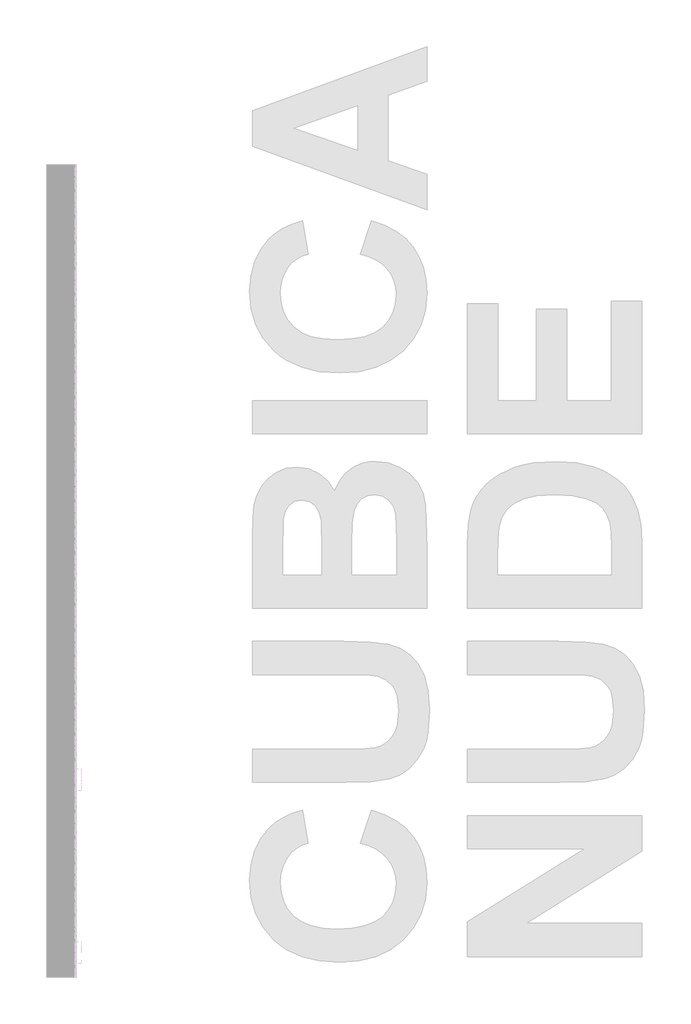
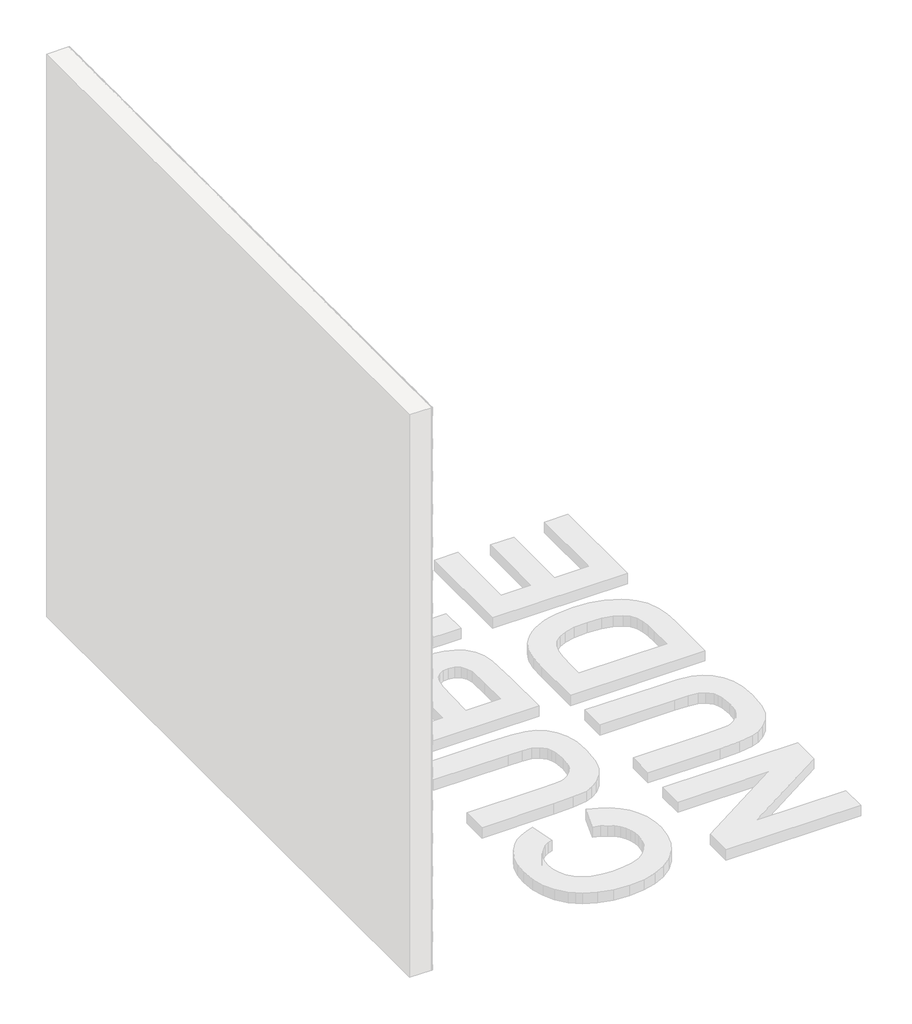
# One storey, part 68 of 121: 145 proxies.
"""IFC4 building model written with IfcOpenShell, lengths in millimetres."""

from ifc_helpers import new_model, si_unit, origin, place, context, project, spatial, transform, mapped, element, save
from components import generic_models_b2b2c5c1, generic_models_9bf73f6f, generic_models_5d175859

model = new_model("IFC4")

# Units and contexts
model_context = context("Model", 3, world=origin())
ifc_project = project(units=[si_unit("LENGTHUNIT", "METRE", prefix="MILLI")], contexts=[model_context])

# Site, building, storey
site = spatial("IfcSite", under=ifc_project)
building = spatial("IfcBuilding", under=site)
storey = spatial("IfcBuildingStorey", under=building, Name="PORTOBELLO - SHOWROOM", Elevation=0.0)

# Proxies
placement = place(None, origin())
generic_models_shape = generic_models_b2b2c5c1(model_context)
element("IfcBuildingElementProxy", 1, Name="PBSHOP - CUBICA NUDE 4,8X8,3 : CUBICA NUDE - POSIÇÃO 01", ObjectType="PBSHOP - CUBICA NUDE 4,8X8,3 : CUBICA NUDE - POSIÇÃO 01", at=placement, inside=storey, context=model_context, shape_type="MappedRepresentation", body=[
    mapped(generic_models_shape, transform((150369.5341846, 8304.1723997, 1460.2456575), x_axis=(0.0, 1.0, 0.0), y_axis=(0.0, 0.0, 1.0), z_axis=(1.0, 0.0, 0.0))),
])
element("IfcBuildingElementProxy", 2, Name="PBSHOP - CUBICA NUDE 4,8X8,3 : CUBICA NUDE - POSIÇÃO 01", ObjectType="PBSHOP - CUBICA NUDE 4,8X8,3 : CUBICA NUDE - POSIÇÃO 01", at=placement, inside=storey, context=model_context, shape_type="MappedRepresentation", body=[
    mapped(generic_models_shape, transform((150369.5341846, 8395.0116689, 1460.2456575), x_axis=(0.0, 1.0, 0.0), y_axis=(0.0, 0.0, 1.0), z_axis=(1.0, 0.0, 0.0))),
])
element("IfcBuildingElementProxy", 3, Name="PBSHOP - CUBICA NUDE 4,8X8,3 : CUBICA NUDE - POSIÇÃO 01", ObjectType="PBSHOP - CUBICA NUDE 4,8X8,3 : CUBICA NUDE - POSIÇÃO 01", at=placement, inside=storey, context=model_context, shape_type="MappedRepresentation", body=[
    mapped(generic_models_shape, transform((150369.5341846, 8485.8509382, 1460.2456575), x_axis=(0.0, 1.0, 0.0), y_axis=(0.0, 0.0, 1.0), z_axis=(1.0, 0.0, 0.0))),
])
element("IfcBuildingElementProxy", 4, Name="PBSHOP - CUBICA NUDE 4,8X8,3 : CUBICA NUDE - POSIÇÃO 01", ObjectType="PBSHOP - CUBICA NUDE 4,8X8,3 : CUBICA NUDE - POSIÇÃO 01", at=placement, inside=storey, context=model_context, shape_type="MappedRepresentation", body=[
    mapped(generic_models_shape, transform((150369.5341846, 8576.6902074, 1460.2456575), x_axis=(0.0, 1.0, 0.0), y_axis=(0.0, 0.0, 1.0), z_axis=(1.0, 0.0, 0.0))),
])
element("IfcBuildingElementProxy", 5, Name="PBSHOP - CUBICA NUDE 4,8X8,3 : CUBICA NUDE - POSIÇÃO 01", ObjectType="PBSHOP - CUBICA NUDE 4,8X8,3 : CUBICA NUDE - POSIÇÃO 01", at=placement, inside=storey, context=model_context, shape_type="MappedRepresentation", body=[
    mapped(generic_models_shape, transform((150369.5341846, 8667.5294767, 1460.2456575), x_axis=(0.0, 1.0, 0.0), y_axis=(0.0, 0.0, 1.0), z_axis=(1.0, 0.0, 0.0))),
])
element("IfcBuildingElementProxy", 6, Name="PBSHOP - CUBICA NUDE 4,8X8,3 : CUBICA NUDE - POSIÇÃO 01", ObjectType="PBSHOP - CUBICA NUDE 4,8X8,3 : CUBICA NUDE - POSIÇÃO 01", at=placement, inside=storey, context=model_context, shape_type="MappedRepresentation", body=[
    mapped(generic_models_shape, transform((150369.5341846, 8758.3687459, 1460.2456575), x_axis=(0.0, 1.0, 0.0), y_axis=(0.0, 0.0, 1.0), z_axis=(1.0, 0.0, 0.0))),
])
element("IfcBuildingElementProxy", 7, Name="PBSHOP - CUBICA NUDE 4,8X8,3 : CUBICA NUDE - POSIÇÃO 01", ObjectType="PBSHOP - CUBICA NUDE 4,8X8,3 : CUBICA NUDE - POSIÇÃO 01", at=placement, inside=storey, context=model_context, shape_type="MappedRepresentation", body=[
    mapped(generic_models_shape, transform((150369.5341846, 8849.2080152, 1460.2456575), x_axis=(0.0, 1.0, 0.0), y_axis=(0.0, 0.0, 1.0), z_axis=(1.0, 0.0, 0.0))),
])
element("IfcBuildingElementProxy", 8, Name="PBSHOP - CUBICA NUDE 4,8X8,3 : CUBICA NUDE - POSIÇÃO 01", ObjectType="PBSHOP - CUBICA NUDE 4,8X8,3 : CUBICA NUDE - POSIÇÃO 01", at=placement, inside=storey, context=model_context, shape_type="MappedRepresentation", body=[
    mapped(generic_models_shape, transform((150369.5341846, 8940.0472844, 1460.2456575), x_axis=(0.0, 1.0, 0.0), y_axis=(0.0, 0.0, 1.0), z_axis=(1.0, 0.0, 0.0))),
])
element("IfcBuildingElementProxy", 9, Name="PBSHOP - CUBICA NUDE 4,8X8,3 : CUBICA NUDE - POSIÇÃO 01", ObjectType="PBSHOP - CUBICA NUDE 4,8X8,3 : CUBICA NUDE - POSIÇÃO 01", at=placement, inside=storey, context=model_context, shape_type="MappedRepresentation", body=[
    mapped(generic_models_shape, transform((150369.5341846, 8077.0742266, 1539.1802959), x_axis=(0.0, 1.0, 0.0), y_axis=(0.0, 0.0, 1.0), z_axis=(1.0, 0.0, 0.0))),
])
element("IfcBuildingElementProxy", 10, Name="PBSHOP - CUBICA NUDE 4,8X8,3 : CUBICA NUDE - POSIÇÃO 01", ObjectType="PBSHOP - CUBICA NUDE 4,8X8,3 : CUBICA NUDE - POSIÇÃO 01", at=placement, inside=storey, context=model_context, shape_type="MappedRepresentation", body=[
    mapped(generic_models_shape, transform((150369.5341846, 8167.9134958, 1539.1802959), x_axis=(0.0, 1.0, 0.0), y_axis=(0.0, 0.0, 1.0), z_axis=(1.0, 0.0, 0.0))),
])
element("IfcBuildingElementProxy", 11, Name="PBSHOP - CUBICA NUDE 4,8X8,3 : CUBICA NUDE - POSIÇÃO 01", ObjectType="PBSHOP - CUBICA NUDE 4,8X8,3 : CUBICA NUDE - POSIÇÃO 01", at=placement, inside=storey, context=model_context, shape_type="MappedRepresentation", body=[
    mapped(generic_models_shape, transform((150369.5341846, 8258.7527651, 1539.1802959), x_axis=(0.0, 1.0, 0.0), y_axis=(0.0, 0.0, 1.0), z_axis=(1.0, 0.0, 0.0))),
])
element("IfcBuildingElementProxy", 12, Name="PBSHOP - CUBICA NUDE 4,8X8,3 : CUBICA NUDE - POSIÇÃO 01", ObjectType="PBSHOP - CUBICA NUDE 4,8X8,3 : CUBICA NUDE - POSIÇÃO 01", at=placement, inside=storey, context=model_context, shape_type="MappedRepresentation", body=[
    mapped(generic_models_shape, transform((150369.5341846, 8349.5920343, 1539.1802959), x_axis=(0.0, 1.0, 0.0), y_axis=(0.0, 0.0, 1.0), z_axis=(1.0, 0.0, 0.0))),
])
element("IfcBuildingElementProxy", 13, Name="PBSHOP - CUBICA NUDE 4,8X8,3 : CUBICA NUDE - POSIÇÃO 01", ObjectType="PBSHOP - CUBICA NUDE 4,8X8,3 : CUBICA NUDE - POSIÇÃO 01", at=placement, inside=storey, context=model_context, shape_type="MappedRepresentation", body=[
    mapped(generic_models_shape, transform((150369.5341846, 8440.4313036, 1539.1802959), x_axis=(0.0, 1.0, 0.0), y_axis=(0.0, 0.0, 1.0), z_axis=(1.0, 0.0, 0.0))),
])
element("IfcBuildingElementProxy", 14, Name="PBSHOP - CUBICA NUDE 4,8X8,3 : CUBICA NUDE - POSIÇÃO 01", ObjectType="PBSHOP - CUBICA NUDE 4,8X8,3 : CUBICA NUDE - POSIÇÃO 01", at=placement, inside=storey, context=model_context, shape_type="MappedRepresentation", body=[
    mapped(generic_models_shape, transform((150369.5341846, 8531.2705728, 1539.1802959), x_axis=(0.0, 1.0, 0.0), y_axis=(0.0, 0.0, 1.0), z_axis=(1.0, 0.0, 0.0))),
])
element("IfcBuildingElementProxy", 15, Name="PBSHOP - CUBICA NUDE 4,8X8,3 : CUBICA NUDE - POSIÇÃO 01", ObjectType="PBSHOP - CUBICA NUDE 4,8X8,3 : CUBICA NUDE - POSIÇÃO 01", at=placement, inside=storey, context=model_context, shape_type="MappedRepresentation", body=[
    mapped(generic_models_shape, transform((150369.5341846, 8622.109842, 1539.1802959), x_axis=(0.0, 1.0, 0.0), y_axis=(0.0, 0.0, 1.0), z_axis=(1.0, 0.0, 0.0))),
])
element("IfcBuildingElementProxy", 16, Name="PBSHOP - CUBICA NUDE 4,8X8,3 : CUBICA NUDE - POSIÇÃO 01", ObjectType="PBSHOP - CUBICA NUDE 4,8X8,3 : CUBICA NUDE - POSIÇÃO 01", at=placement, inside=storey, context=model_context, shape_type="MappedRepresentation", body=[
    mapped(generic_models_shape, transform((150369.5341846, 8712.9491113, 1539.1802959), x_axis=(0.0, 1.0, 0.0), y_axis=(0.0, 0.0, 1.0), z_axis=(1.0, 0.0, 0.0))),
])
element("IfcBuildingElementProxy", 17, Name="PBSHOP - CUBICA NUDE 4,8X8,3 : CUBICA NUDE - POSIÇÃO 01", ObjectType="PBSHOP - CUBICA NUDE 4,8X8,3 : CUBICA NUDE - POSIÇÃO 01", at=placement, inside=storey, context=model_context, shape_type="MappedRepresentation", body=[
    mapped(generic_models_shape, transform((150369.5341846, 8803.7883805, 1539.1802959), x_axis=(0.0, 1.0, 0.0), y_axis=(0.0, 0.0, 1.0), z_axis=(1.0, 0.0, 0.0))),
])
element("IfcBuildingElementProxy", 18, Name="PBSHOP - CUBICA NUDE 4,8X8,3 : CUBICA NUDE - POSIÇÃO 01", ObjectType="PBSHOP - CUBICA NUDE 4,8X8,3 : CUBICA NUDE - POSIÇÃO 01", at=placement, inside=storey, context=model_context, shape_type="MappedRepresentation", body=[
    mapped(generic_models_shape, transform((150369.5341846, 8894.6276498, 1539.1802959), x_axis=(0.0, 1.0, 0.0), y_axis=(0.0, 0.0, 1.0), z_axis=(1.0, 0.0, 0.0))),
])
element("IfcBuildingElementProxy", 19, Name="PBSHOP - CUBICA NUDE 4,8X8,3 : CUBICA NUDE - POSIÇÃO 01", ObjectType="PBSHOP - CUBICA NUDE 4,8X8,3 : CUBICA NUDE - POSIÇÃO 01", at=placement, inside=storey, context=model_context, shape_type="MappedRepresentation", body=[
    mapped(generic_models_shape, transform((150369.5341846, 8985.466919, 1539.1802959), x_axis=(0.0, 1.0, 0.0), y_axis=(0.0, 0.0, 1.0), z_axis=(1.0, 0.0, 0.0))),
])
element("IfcBuildingElementProxy", 20, Name="PBSHOP - CUBICA NUDE 4,8X8,3 : CUBICA NUDE - POSIÇÃO 01", ObjectType="PBSHOP - CUBICA NUDE 4,8X8,3 : CUBICA NUDE - POSIÇÃO 01", at=placement, inside=storey, context=model_context, shape_type="MappedRepresentation", body=[
    mapped(generic_models_shape, transform((150369.5341846, 8031.654592, 1618.1149343), x_axis=(0.0, 1.0, 0.0), y_axis=(0.0, 0.0, 1.0), z_axis=(1.0, 0.0, 0.0))),
])
element("IfcBuildingElementProxy", 21, Name="PBSHOP - CUBICA NUDE 4,8X8,3 : CUBICA NUDE - POSIÇÃO 01", ObjectType="PBSHOP - CUBICA NUDE 4,8X8,3 : CUBICA NUDE - POSIÇÃO 01", at=placement, inside=storey, context=model_context, shape_type="MappedRepresentation", body=[
    mapped(generic_models_shape, transform((150369.5341846, 8122.4938612, 1618.1149343), x_axis=(0.0, 1.0, 0.0), y_axis=(0.0, 0.0, 1.0), z_axis=(1.0, 0.0, 0.0))),
])
element("IfcBuildingElementProxy", 22, Name="PBSHOP - CUBICA NUDE 4,8X8,3 : CUBICA NUDE - POSIÇÃO 01", ObjectType="PBSHOP - CUBICA NUDE 4,8X8,3 : CUBICA NUDE - POSIÇÃO 01", at=placement, inside=storey, context=model_context, shape_type="MappedRepresentation", body=[
    mapped(generic_models_shape, transform((150369.5341846, 8213.3331304, 1618.1149343), x_axis=(0.0, 1.0, 0.0), y_axis=(0.0, 0.0, 1.0), z_axis=(1.0, 0.0, 0.0))),
])
element("IfcBuildingElementProxy", 23, Name="PBSHOP - CUBICA NUDE 4,8X8,3 : CUBICA NUDE - POSIÇÃO 01", ObjectType="PBSHOP - CUBICA NUDE 4,8X8,3 : CUBICA NUDE - POSIÇÃO 01", at=placement, inside=storey, context=model_context, shape_type="MappedRepresentation", body=[
    mapped(generic_models_shape, transform((150369.5341846, 8304.1723997, 1618.1149343), x_axis=(0.0, 1.0, 0.0), y_axis=(0.0, 0.0, 1.0), z_axis=(1.0, 0.0, 0.0))),
])
element("IfcBuildingElementProxy", 24, Name="PBSHOP - CUBICA NUDE 4,8X8,3 : CUBICA NUDE - POSIÇÃO 01", ObjectType="PBSHOP - CUBICA NUDE 4,8X8,3 : CUBICA NUDE - POSIÇÃO 01", at=placement, inside=storey, context=model_context, shape_type="MappedRepresentation", body=[
    mapped(generic_models_shape, transform((150369.5341846, 8395.0116689, 1618.1149343), x_axis=(0.0, 1.0, 0.0), y_axis=(0.0, 0.0, 1.0), z_axis=(1.0, 0.0, 0.0))),
])
element("IfcBuildingElementProxy", 25, Name="PBSHOP - CUBICA NUDE 4,8X8,3 : CUBICA NUDE - POSIÇÃO 01", ObjectType="PBSHOP - CUBICA NUDE 4,8X8,3 : CUBICA NUDE - POSIÇÃO 01", at=placement, inside=storey, context=model_context, shape_type="MappedRepresentation", body=[
    mapped(generic_models_shape, transform((150369.5341846, 8485.8509382, 1618.1149343), x_axis=(0.0, 1.0, 0.0), y_axis=(0.0, 0.0, 1.0), z_axis=(1.0, 0.0, 0.0))),
])
element("IfcBuildingElementProxy", 26, Name="PBSHOP - CUBICA NUDE 4,8X8,3 : CUBICA NUDE - POSIÇÃO 01", ObjectType="PBSHOP - CUBICA NUDE 4,8X8,3 : CUBICA NUDE - POSIÇÃO 01", at=placement, inside=storey, context=model_context, shape_type="MappedRepresentation", body=[
    mapped(generic_models_shape, transform((150369.5341846, 8576.6902074, 1618.1149343), x_axis=(0.0, 1.0, 0.0), y_axis=(0.0, 0.0, 1.0), z_axis=(1.0, 0.0, 0.0))),
])
element("IfcBuildingElementProxy", 27, Name="PBSHOP - CUBICA NUDE 4,8X8,3 : CUBICA NUDE - POSIÇÃO 01", ObjectType="PBSHOP - CUBICA NUDE 4,8X8,3 : CUBICA NUDE - POSIÇÃO 01", at=placement, inside=storey, context=model_context, shape_type="MappedRepresentation", body=[
    mapped(generic_models_shape, transform((150369.5341846, 8667.5294767, 1618.1149343), x_axis=(0.0, 1.0, 0.0), y_axis=(0.0, 0.0, 1.0), z_axis=(1.0, 0.0, 0.0))),
])
element("IfcBuildingElementProxy", 28, Name="PBSHOP - CUBICA NUDE 4,8X8,3 : CUBICA NUDE - POSIÇÃO 01", ObjectType="PBSHOP - CUBICA NUDE 4,8X8,3 : CUBICA NUDE - POSIÇÃO 01", at=placement, inside=storey, context=model_context, shape_type="MappedRepresentation", body=[
    mapped(generic_models_shape, transform((150369.5341846, 8758.3687459, 1618.1149343), x_axis=(0.0, 1.0, 0.0), y_axis=(0.0, 0.0, 1.0), z_axis=(1.0, 0.0, 0.0))),
])
element("IfcBuildingElementProxy", 29, Name="PBSHOP - CUBICA NUDE 4,8X8,3 : CUBICA NUDE - POSIÇÃO 01", ObjectType="PBSHOP - CUBICA NUDE 4,8X8,3 : CUBICA NUDE - POSIÇÃO 01", at=placement, inside=storey, context=model_context, shape_type="MappedRepresentation", body=[
    mapped(generic_models_shape, transform((150369.5341846, 8849.2080152, 1618.1149343), x_axis=(0.0, 1.0, 0.0), y_axis=(0.0, 0.0, 1.0), z_axis=(1.0, 0.0, 0.0))),
])
element("IfcBuildingElementProxy", 30, Name="PBSHOP - CUBICA NUDE 4,8X8,3 : CUBICA NUDE - POSIÇÃO 01", ObjectType="PBSHOP - CUBICA NUDE 4,8X8,3 : CUBICA NUDE - POSIÇÃO 01", at=placement, inside=storey, context=model_context, shape_type="MappedRepresentation", body=[
    mapped(generic_models_shape, transform((150369.5341846, 8940.0472844, 1618.1149343), x_axis=(0.0, 1.0, 0.0), y_axis=(0.0, 0.0, 1.0), z_axis=(1.0, 0.0, 0.0))),
])
element("IfcBuildingElementProxy", 31, Name="PBSHOP - CUBICA NUDE 4,8X8,3 : CUBICA NUDE - POSIÇÃO 01", ObjectType="PBSHOP - CUBICA NUDE 4,8X8,3 : CUBICA NUDE - POSIÇÃO 01", at=placement, inside=storey, context=model_context, shape_type="MappedRepresentation", body=[
    mapped(generic_models_shape, transform((150369.5341846, 8077.0742266, 1697.0495727), x_axis=(0.0, 1.0, 0.0), y_axis=(0.0, 0.0, 1.0), z_axis=(1.0, 0.0, 0.0))),
])
element("IfcBuildingElementProxy", 32, Name="PBSHOP - CUBICA NUDE 4,8X8,3 : CUBICA NUDE - POSIÇÃO 01", ObjectType="PBSHOP - CUBICA NUDE 4,8X8,3 : CUBICA NUDE - POSIÇÃO 01", at=placement, inside=storey, context=model_context, shape_type="MappedRepresentation", body=[
    mapped(generic_models_shape, transform((150369.5341846, 8167.9134958, 1697.0495727), x_axis=(0.0, 1.0, 0.0), y_axis=(0.0, 0.0, 1.0), z_axis=(1.0, 0.0, 0.0))),
])
element("IfcBuildingElementProxy", 33, Name="PBSHOP - CUBICA NUDE 4,8X8,3 : CUBICA NUDE - POSIÇÃO 01", ObjectType="PBSHOP - CUBICA NUDE 4,8X8,3 : CUBICA NUDE - POSIÇÃO 01", at=placement, inside=storey, context=model_context, shape_type="MappedRepresentation", body=[
    mapped(generic_models_shape, transform((150369.5341846, 8258.7527651, 1697.0495727), x_axis=(0.0, 1.0, 0.0), y_axis=(0.0, 0.0, 1.0), z_axis=(1.0, 0.0, 0.0))),
])
element("IfcBuildingElementProxy", 34, Name="PBSHOP - CUBICA NUDE 4,8X8,3 : CUBICA NUDE - POSIÇÃO 01", ObjectType="PBSHOP - CUBICA NUDE 4,8X8,3 : CUBICA NUDE - POSIÇÃO 01", at=placement, inside=storey, context=model_context, shape_type="MappedRepresentation", body=[
    mapped(generic_models_shape, transform((150369.5341846, 8349.5920343, 1697.0495727), x_axis=(0.0, 1.0, 0.0), y_axis=(0.0, 0.0, 1.0), z_axis=(1.0, 0.0, 0.0))),
])
element("IfcBuildingElementProxy", 35, Name="PBSHOP - CUBICA NUDE 4,8X8,3 : CUBICA NUDE - POSIÇÃO 01", ObjectType="PBSHOP - CUBICA NUDE 4,8X8,3 : CUBICA NUDE - POSIÇÃO 01", at=placement, inside=storey, context=model_context, shape_type="MappedRepresentation", body=[
    mapped(generic_models_shape, transform((150369.5341846, 8440.4313036, 1697.0495727), x_axis=(0.0, 1.0, 0.0), y_axis=(0.0, 0.0, 1.0), z_axis=(1.0, 0.0, 0.0))),
])
element("IfcBuildingElementProxy", 36, Name="PBSHOP - CUBICA NUDE 4,8X8,3 : CUBICA NUDE - POSIÇÃO 01", ObjectType="PBSHOP - CUBICA NUDE 4,8X8,3 : CUBICA NUDE - POSIÇÃO 01", at=placement, inside=storey, context=model_context, shape_type="MappedRepresentation", body=[
    mapped(generic_models_shape, transform((150369.5341846, 8531.2705728, 1697.0495727), x_axis=(0.0, 1.0, 0.0), y_axis=(0.0, 0.0, 1.0), z_axis=(1.0, 0.0, 0.0))),
])
element("IfcBuildingElementProxy", 37, Name="PBSHOP - CUBICA NUDE 4,8X8,3 : CUBICA NUDE - POSIÇÃO 01", ObjectType="PBSHOP - CUBICA NUDE 4,8X8,3 : CUBICA NUDE - POSIÇÃO 01", at=placement, inside=storey, context=model_context, shape_type="MappedRepresentation", body=[
    mapped(generic_models_shape, transform((150369.5341846, 8622.109842, 1697.0495727), x_axis=(0.0, 1.0, 0.0), y_axis=(0.0, 0.0, 1.0), z_axis=(1.0, 0.0, 0.0))),
])
element("IfcBuildingElementProxy", 38, Name="PBSHOP - CUBICA NUDE 4,8X8,3 : CUBICA NUDE - POSIÇÃO 01", ObjectType="PBSHOP - CUBICA NUDE 4,8X8,3 : CUBICA NUDE - POSIÇÃO 01", at=placement, inside=storey, context=model_context, shape_type="MappedRepresentation", body=[
    mapped(generic_models_shape, transform((150369.5341846, 8712.9491113, 1697.0495727), x_axis=(0.0, 1.0, 0.0), y_axis=(0.0, 0.0, 1.0), z_axis=(1.0, 0.0, 0.0))),
])
element("IfcBuildingElementProxy", 39, Name="PBSHOP - CUBICA NUDE 4,8X8,3 : CUBICA NUDE - POSIÇÃO 01", ObjectType="PBSHOP - CUBICA NUDE 4,8X8,3 : CUBICA NUDE - POSIÇÃO 01", at=placement, inside=storey, context=model_context, shape_type="MappedRepresentation", body=[
    mapped(generic_models_shape, transform((150369.5341846, 8803.7883805, 1697.0495727), x_axis=(0.0, 1.0, 0.0), y_axis=(0.0, 0.0, 1.0), z_axis=(1.0, 0.0, 0.0))),
])
element("IfcBuildingElementProxy", 40, Name="PBSHOP - CUBICA NUDE 4,8X8,3 : CUBICA NUDE - POSIÇÃO 01", ObjectType="PBSHOP - CUBICA NUDE 4,8X8,3 : CUBICA NUDE - POSIÇÃO 01", at=placement, inside=storey, context=model_context, shape_type="MappedRepresentation", body=[
    mapped(generic_models_shape, transform((150369.5341846, 8894.6276498, 1697.0495727), x_axis=(0.0, 1.0, 0.0), y_axis=(0.0, 0.0, 1.0), z_axis=(1.0, 0.0, 0.0))),
])
element("IfcBuildingElementProxy", 41, Name="PBSHOP - CUBICA NUDE 4,8X8,3 : CUBICA NUDE - POSIÇÃO 01", ObjectType="PBSHOP - CUBICA NUDE 4,8X8,3 : CUBICA NUDE - POSIÇÃO 01", at=placement, inside=storey, context=model_context, shape_type="MappedRepresentation", body=[
    mapped(generic_models_shape, transform((150369.5341846, 8985.466919, 1697.0495727), x_axis=(0.0, 1.0, 0.0), y_axis=(0.0, 0.0, 1.0), z_axis=(1.0, 0.0, 0.0))),
])
element("IfcBuildingElementProxy", 42, Name="PBSHOP - CUBICA NUDE 4,8X8,3 : CUBICA NUDE - POSIÇÃO 01", ObjectType="PBSHOP - CUBICA NUDE 4,8X8,3 : CUBICA NUDE - POSIÇÃO 01", at=placement, inside=storey, context=model_context, shape_type="MappedRepresentation", body=[
    mapped(generic_models_shape, transform((150369.5341846, 8031.654592, 1775.984211), x_axis=(0.0, 1.0, 0.0), y_axis=(0.0, 0.0, 1.0), z_axis=(1.0, 0.0, 0.0))),
])
element("IfcBuildingElementProxy", 43, Name="PBSHOP - CUBICA NUDE 4,8X8,3 : CUBICA NUDE - POSIÇÃO 01", ObjectType="PBSHOP - CUBICA NUDE 4,8X8,3 : CUBICA NUDE - POSIÇÃO 01", at=placement, inside=storey, context=model_context, shape_type="MappedRepresentation", body=[
    mapped(generic_models_shape, transform((150369.5341846, 8122.4938612, 1775.984211), x_axis=(0.0, 1.0, 0.0), y_axis=(0.0, 0.0, 1.0), z_axis=(1.0, 0.0, 0.0))),
])
element("IfcBuildingElementProxy", 44, Name="PBSHOP - CUBICA NUDE 4,8X8,3 : CUBICA NUDE - POSIÇÃO 01", ObjectType="PBSHOP - CUBICA NUDE 4,8X8,3 : CUBICA NUDE - POSIÇÃO 01", at=placement, inside=storey, context=model_context, shape_type="MappedRepresentation", body=[
    mapped(generic_models_shape, transform((150369.5341846, 8213.3331304, 1775.984211), x_axis=(0.0, 1.0, 0.0), y_axis=(0.0, 0.0, 1.0), z_axis=(1.0, 0.0, 0.0))),
])
element("IfcBuildingElementProxy", 45, Name="PBSHOP - CUBICA NUDE 4,8X8,3 : CUBICA NUDE - POSIÇÃO 01", ObjectType="PBSHOP - CUBICA NUDE 4,8X8,3 : CUBICA NUDE - POSIÇÃO 01", at=placement, inside=storey, context=model_context, shape_type="MappedRepresentation", body=[
    mapped(generic_models_shape, transform((150369.5341846, 8304.1723997, 1775.984211), x_axis=(0.0, 1.0, 0.0), y_axis=(0.0, 0.0, 1.0), z_axis=(1.0, 0.0, 0.0))),
])
element("IfcBuildingElementProxy", 46, Name="PBSHOP - CUBICA NUDE 4,8X8,3 : CUBICA NUDE - POSIÇÃO 01", ObjectType="PBSHOP - CUBICA NUDE 4,8X8,3 : CUBICA NUDE - POSIÇÃO 01", at=placement, inside=storey, context=model_context, shape_type="MappedRepresentation", body=[
    mapped(generic_models_shape, transform((150369.5341846, 8395.0116689, 1775.984211), x_axis=(0.0, 1.0, 0.0), y_axis=(0.0, 0.0, 1.0), z_axis=(1.0, 0.0, 0.0))),
])
element("IfcBuildingElementProxy", 47, Name="PBSHOP - CUBICA NUDE 4,8X8,3 : CUBICA NUDE - POSIÇÃO 01", ObjectType="PBSHOP - CUBICA NUDE 4,8X8,3 : CUBICA NUDE - POSIÇÃO 01", at=placement, inside=storey, context=model_context, shape_type="MappedRepresentation", body=[
    mapped(generic_models_shape, transform((150369.5341846, 8485.8509382, 1775.984211), x_axis=(0.0, 1.0, 0.0), y_axis=(0.0, 0.0, 1.0), z_axis=(1.0, 0.0, 0.0))),
])
element("IfcBuildingElementProxy", 48, Name="PBSHOP - CUBICA NUDE 4,8X8,3 : CUBICA NUDE - POSIÇÃO 01", ObjectType="PBSHOP - CUBICA NUDE 4,8X8,3 : CUBICA NUDE - POSIÇÃO 01", at=placement, inside=storey, context=model_context, shape_type="MappedRepresentation", body=[
    mapped(generic_models_shape, transform((150369.5341846, 8576.6902074, 1775.984211), x_axis=(0.0, 1.0, 0.0), y_axis=(0.0, 0.0, 1.0), z_axis=(1.0, 0.0, 0.0))),
])
element("IfcBuildingElementProxy", 49, Name="PBSHOP - CUBICA NUDE 4,8X8,3 : CUBICA NUDE - POSIÇÃO 01", ObjectType="PBSHOP - CUBICA NUDE 4,8X8,3 : CUBICA NUDE - POSIÇÃO 01", at=placement, inside=storey, context=model_context, shape_type="MappedRepresentation", body=[
    mapped(generic_models_shape, transform((150369.5341846, 8667.5294767, 1775.984211), x_axis=(0.0, 1.0, 0.0), y_axis=(0.0, 0.0, 1.0), z_axis=(1.0, 0.0, 0.0))),
])
element("IfcBuildingElementProxy", 50, Name="PBSHOP - CUBICA NUDE 4,8X8,3 : CUBICA NUDE - POSIÇÃO 01", ObjectType="PBSHOP - CUBICA NUDE 4,8X8,3 : CUBICA NUDE - POSIÇÃO 01", at=placement, inside=storey, context=model_context, shape_type="MappedRepresentation", body=[
    mapped(generic_models_shape, transform((150369.5341846, 8758.3687459, 1775.984211), x_axis=(0.0, 1.0, 0.0), y_axis=(0.0, 0.0, 1.0), z_axis=(1.0, 0.0, 0.0))),
])
element("IfcBuildingElementProxy", 51, Name="PBSHOP - CUBICA NUDE 4,8X8,3 : CUBICA NUDE - POSIÇÃO 01", ObjectType="PBSHOP - CUBICA NUDE 4,8X8,3 : CUBICA NUDE - POSIÇÃO 01", at=placement, inside=storey, context=model_context, shape_type="MappedRepresentation", body=[
    mapped(generic_models_shape, transform((150369.5341846, 8849.2080152, 1775.984211), x_axis=(0.0, 1.0, 0.0), y_axis=(0.0, 0.0, 1.0), z_axis=(1.0, 0.0, 0.0))),
])
generic_models_2_shape = generic_models_9bf73f6f(model_context)
element("IfcBuildingElementProxy", 52, Name="PBSHOP - CUBICA NUDE 4,8X8,3 : CUBICA NUDE - POSIÇÃO 03", ObjectType="PBSHOP - CUBICA NUDE 4,8X8,3 : CUBICA NUDE - POSIÇÃO 03", at=placement, inside=storey, context=model_context, shape_type="MappedRepresentation", body=[
    mapped(generic_models_2_shape, transform((150369.5341846, 8008.9469338, 1420.7371279), x_axis=(0.0, 1.0, 0.0), y_axis=(0.0, 0.0, 1.0), z_axis=(1.0, 0.0, 0.0))),
])
element("IfcBuildingElementProxy", 53, Name="PBSHOP - CUBICA NUDE 4,8X8,3 : CUBICA NUDE - POSIÇÃO 03", ObjectType="PBSHOP - CUBICA NUDE 4,8X8,3 : CUBICA NUDE - POSIÇÃO 03", at=placement, inside=storey, context=model_context, shape_type="MappedRepresentation", body=[
    mapped(generic_models_2_shape, transform((150369.5341846, 8099.7862031, 1420.7371279), x_axis=(0.0, 1.0, 0.0), y_axis=(0.0, 0.0, 1.0), z_axis=(1.0, 0.0, 0.0))),
])
element("IfcBuildingElementProxy", 54, Name="PBSHOP - CUBICA NUDE 4,8X8,3 : CUBICA NUDE - POSIÇÃO 03", ObjectType="PBSHOP - CUBICA NUDE 4,8X8,3 : CUBICA NUDE - POSIÇÃO 03", at=placement, inside=storey, context=model_context, shape_type="MappedRepresentation", body=[
    mapped(generic_models_2_shape, transform((150369.5341846, 8190.6254723, 1420.7371279), x_axis=(0.0, 1.0, 0.0), y_axis=(0.0, 0.0, 1.0), z_axis=(1.0, 0.0, 0.0))),
])
element("IfcBuildingElementProxy", 55, Name="PBSHOP - CUBICA NUDE 4,8X8,3 : CUBICA NUDE - POSIÇÃO 03", ObjectType="PBSHOP - CUBICA NUDE 4,8X8,3 : CUBICA NUDE - POSIÇÃO 03", at=placement, inside=storey, context=model_context, shape_type="MappedRepresentation", body=[
    mapped(generic_models_2_shape, transform((150369.5341846, 8281.4647415, 1420.7371279), x_axis=(0.0, 1.0, 0.0), y_axis=(0.0, 0.0, 1.0), z_axis=(1.0, 0.0, 0.0))),
])
element("IfcBuildingElementProxy", 56, Name="PBSHOP - CUBICA NUDE 4,8X8,3 : CUBICA NUDE - POSIÇÃO 03", ObjectType="PBSHOP - CUBICA NUDE 4,8X8,3 : CUBICA NUDE - POSIÇÃO 03", at=placement, inside=storey, context=model_context, shape_type="MappedRepresentation", body=[
    mapped(generic_models_2_shape, transform((150369.5341846, 8372.3040108, 1420.7371279), x_axis=(0.0, 1.0, 0.0), y_axis=(0.0, 0.0, 1.0), z_axis=(1.0, 0.0, 0.0))),
])
element("IfcBuildingElementProxy", 57, Name="PBSHOP - CUBICA NUDE 4,8X8,3 : CUBICA NUDE - POSIÇÃO 03", ObjectType="PBSHOP - CUBICA NUDE 4,8X8,3 : CUBICA NUDE - POSIÇÃO 03", at=placement, inside=storey, context=model_context, shape_type="MappedRepresentation", body=[
    mapped(generic_models_2_shape, transform((150369.5341846, 8463.14328, 1420.7371279), x_axis=(0.0, 1.0, 0.0), y_axis=(0.0, 0.0, 1.0), z_axis=(1.0, 0.0, 0.0))),
])
element("IfcBuildingElementProxy", 58, Name="PBSHOP - CUBICA NUDE 4,8X8,3 : CUBICA NUDE - POSIÇÃO 03", ObjectType="PBSHOP - CUBICA NUDE 4,8X8,3 : CUBICA NUDE - POSIÇÃO 03", at=placement, inside=storey, context=model_context, shape_type="MappedRepresentation", body=[
    mapped(generic_models_2_shape, transform((150369.5341846, 8553.9825493, 1420.7371279), x_axis=(0.0, 1.0, 0.0), y_axis=(0.0, 0.0, 1.0), z_axis=(1.0, 0.0, 0.0))),
])
element("IfcBuildingElementProxy", 59, Name="PBSHOP - CUBICA NUDE 4,8X8,3 : CUBICA NUDE - POSIÇÃO 03", ObjectType="PBSHOP - CUBICA NUDE 4,8X8,3 : CUBICA NUDE - POSIÇÃO 03", at=placement, inside=storey, context=model_context, shape_type="MappedRepresentation", body=[
    mapped(generic_models_2_shape, transform((150369.5341846, 8644.8218185, 1420.7371279), x_axis=(0.0, 1.0, 0.0), y_axis=(0.0, 0.0, 1.0), z_axis=(1.0, 0.0, 0.0))),
])
element("IfcBuildingElementProxy", 60, Name="PBSHOP - CUBICA NUDE 4,8X8,3 : CUBICA NUDE - POSIÇÃO 03", ObjectType="PBSHOP - CUBICA NUDE 4,8X8,3 : CUBICA NUDE - POSIÇÃO 03", at=placement, inside=storey, context=model_context, shape_type="MappedRepresentation", body=[
    mapped(generic_models_2_shape, transform((150369.5341846, 8735.6610878, 1420.7371279), x_axis=(0.0, 1.0, 0.0), y_axis=(0.0, 0.0, 1.0), z_axis=(1.0, 0.0, 0.0))),
])
element("IfcBuildingElementProxy", 61, Name="PBSHOP - CUBICA NUDE 4,8X8,3 : CUBICA NUDE - POSIÇÃO 03", ObjectType="PBSHOP - CUBICA NUDE 4,8X8,3 : CUBICA NUDE - POSIÇÃO 03", at=placement, inside=storey, context=model_context, shape_type="MappedRepresentation", body=[
    mapped(generic_models_2_shape, transform((150369.5341846, 8826.500357, 1420.7371279), x_axis=(0.0, 1.0, 0.0), y_axis=(0.0, 0.0, 1.0), z_axis=(1.0, 0.0, 0.0))),
])
element("IfcBuildingElementProxy", 62, Name="PBSHOP - CUBICA NUDE 4,8X8,3 : CUBICA NUDE - POSIÇÃO 03", ObjectType="PBSHOP - CUBICA NUDE 4,8X8,3 : CUBICA NUDE - POSIÇÃO 03", at=placement, inside=storey, context=model_context, shape_type="MappedRepresentation", body=[
    mapped(generic_models_2_shape, transform((150369.5341846, 8917.3396263, 1420.7371279), x_axis=(0.0, 1.0, 0.0), y_axis=(0.0, 0.0, 1.0), z_axis=(1.0, 0.0, 0.0))),
])
element("IfcBuildingElementProxy", 63, Name="PBSHOP - CUBICA NUDE 4,8X8,3 : CUBICA NUDE - POSIÇÃO 03", ObjectType="PBSHOP - CUBICA NUDE 4,8X8,3 : CUBICA NUDE - POSIÇÃO 03", at=placement, inside=storey, context=model_context, shape_type="MappedRepresentation", body=[
    mapped(generic_models_2_shape, transform((150369.5341846, 8054.3665684, 1499.6717663), x_axis=(0.0, 1.0, 0.0), y_axis=(0.0, 0.0, 1.0), z_axis=(1.0, 0.0, 0.0))),
])
element("IfcBuildingElementProxy", 64, Name="PBSHOP - CUBICA NUDE 4,8X8,3 : CUBICA NUDE - POSIÇÃO 03", ObjectType="PBSHOP - CUBICA NUDE 4,8X8,3 : CUBICA NUDE - POSIÇÃO 03", at=placement, inside=storey, context=model_context, shape_type="MappedRepresentation", body=[
    mapped(generic_models_2_shape, transform((150369.5341846, 8145.2058377, 1499.6717663), x_axis=(0.0, 1.0, 0.0), y_axis=(0.0, 0.0, 1.0), z_axis=(1.0, 0.0, 0.0))),
])
element("IfcBuildingElementProxy", 65, Name="PBSHOP - CUBICA NUDE 4,8X8,3 : CUBICA NUDE - POSIÇÃO 03", ObjectType="PBSHOP - CUBICA NUDE 4,8X8,3 : CUBICA NUDE - POSIÇÃO 03", at=placement, inside=storey, context=model_context, shape_type="MappedRepresentation", body=[
    mapped(generic_models_2_shape, transform((150369.5341846, 8236.0451069, 1499.6717663), x_axis=(0.0, 1.0, 0.0), y_axis=(0.0, 0.0, 1.0), z_axis=(1.0, 0.0, 0.0))),
])
element("IfcBuildingElementProxy", 66, Name="PBSHOP - CUBICA NUDE 4,8X8,3 : CUBICA NUDE - POSIÇÃO 03", ObjectType="PBSHOP - CUBICA NUDE 4,8X8,3 : CUBICA NUDE - POSIÇÃO 03", at=placement, inside=storey, context=model_context, shape_type="MappedRepresentation", body=[
    mapped(generic_models_2_shape, transform((150369.5341846, 8326.8843762, 1499.6717663), x_axis=(0.0, 1.0, 0.0), y_axis=(0.0, 0.0, 1.0), z_axis=(1.0, 0.0, 0.0))),
])
element("IfcBuildingElementProxy", 67, Name="PBSHOP - CUBICA NUDE 4,8X8,3 : CUBICA NUDE - POSIÇÃO 03", ObjectType="PBSHOP - CUBICA NUDE 4,8X8,3 : CUBICA NUDE - POSIÇÃO 03", at=placement, inside=storey, context=model_context, shape_type="MappedRepresentation", body=[
    mapped(generic_models_2_shape, transform((150369.5341846, 8417.7236454, 1499.6717663), x_axis=(0.0, 1.0, 0.0), y_axis=(0.0, 0.0, 1.0), z_axis=(1.0, 0.0, 0.0))),
])
element("IfcBuildingElementProxy", 68, Name="PBSHOP - CUBICA NUDE 4,8X8,3 : CUBICA NUDE - POSIÇÃO 03", ObjectType="PBSHOP - CUBICA NUDE 4,8X8,3 : CUBICA NUDE - POSIÇÃO 03", at=placement, inside=storey, context=model_context, shape_type="MappedRepresentation", body=[
    mapped(generic_models_2_shape, transform((150369.5341846, 8508.5629147, 1499.6717663), x_axis=(0.0, 1.0, 0.0), y_axis=(0.0, 0.0, 1.0), z_axis=(1.0, 0.0, 0.0))),
])
element("IfcBuildingElementProxy", 69, Name="PBSHOP - CUBICA NUDE 4,8X8,3 : CUBICA NUDE - POSIÇÃO 03", ObjectType="PBSHOP - CUBICA NUDE 4,8X8,3 : CUBICA NUDE - POSIÇÃO 03", at=placement, inside=storey, context=model_context, shape_type="MappedRepresentation", body=[
    mapped(generic_models_2_shape, transform((150369.5341846, 8599.4021839, 1499.6717663), x_axis=(0.0, 1.0, 0.0), y_axis=(0.0, 0.0, 1.0), z_axis=(1.0, 0.0, 0.0))),
])
element("IfcBuildingElementProxy", 70, Name="PBSHOP - CUBICA NUDE 4,8X8,3 : CUBICA NUDE - POSIÇÃO 03", ObjectType="PBSHOP - CUBICA NUDE 4,8X8,3 : CUBICA NUDE - POSIÇÃO 03", at=placement, inside=storey, context=model_context, shape_type="MappedRepresentation", body=[
    mapped(generic_models_2_shape, transform((150369.5341846, 8690.2414531, 1499.6717663), x_axis=(0.0, 1.0, 0.0), y_axis=(0.0, 0.0, 1.0), z_axis=(1.0, 0.0, 0.0))),
])
element("IfcBuildingElementProxy", 71, Name="PBSHOP - CUBICA NUDE 4,8X8,3 : CUBICA NUDE - POSIÇÃO 03", ObjectType="PBSHOP - CUBICA NUDE 4,8X8,3 : CUBICA NUDE - POSIÇÃO 03", at=placement, inside=storey, context=model_context, shape_type="MappedRepresentation", body=[
    mapped(generic_models_2_shape, transform((150369.5341846, 8781.0807224, 1499.6717663), x_axis=(0.0, 1.0, 0.0), y_axis=(0.0, 0.0, 1.0), z_axis=(1.0, 0.0, 0.0))),
])
element("IfcBuildingElementProxy", 72, Name="PBSHOP - CUBICA NUDE 4,8X8,3 : CUBICA NUDE - POSIÇÃO 03", ObjectType="PBSHOP - CUBICA NUDE 4,8X8,3 : CUBICA NUDE - POSIÇÃO 03", at=placement, inside=storey, context=model_context, shape_type="MappedRepresentation", body=[
    mapped(generic_models_2_shape, transform((150369.5341846, 8871.9199916, 1499.6717663), x_axis=(0.0, 1.0, 0.0), y_axis=(0.0, 0.0, 1.0), z_axis=(1.0, 0.0, 0.0))),
])
element("IfcBuildingElementProxy", 73, Name="PBSHOP - CUBICA NUDE 4,8X8,3 : CUBICA NUDE - POSIÇÃO 03", ObjectType="PBSHOP - CUBICA NUDE 4,8X8,3 : CUBICA NUDE - POSIÇÃO 03", at=placement, inside=storey, context=model_context, shape_type="MappedRepresentation", body=[
    mapped(generic_models_2_shape, transform((150369.5341846, 8962.7592609, 1499.6717663), x_axis=(0.0, 1.0, 0.0), y_axis=(0.0, 0.0, 1.0), z_axis=(1.0, 0.0, 0.0))),
])
element("IfcBuildingElementProxy", 74, Name="PBSHOP - CUBICA NUDE 4,8X8,3 : CUBICA NUDE - POSIÇÃO 03", ObjectType="PBSHOP - CUBICA NUDE 4,8X8,3 : CUBICA NUDE - POSIÇÃO 03", at=placement, inside=storey, context=model_context, shape_type="MappedRepresentation", body=[
    mapped(generic_models_2_shape, transform((150369.5341846, 8008.9469338, 1578.6064047), x_axis=(0.0, 1.0, 0.0), y_axis=(0.0, 0.0, 1.0), z_axis=(1.0, 0.0, 0.0))),
])
element("IfcBuildingElementProxy", 75, Name="PBSHOP - CUBICA NUDE 4,8X8,3 : CUBICA NUDE - POSIÇÃO 03", ObjectType="PBSHOP - CUBICA NUDE 4,8X8,3 : CUBICA NUDE - POSIÇÃO 03", at=placement, inside=storey, context=model_context, shape_type="MappedRepresentation", body=[
    mapped(generic_models_2_shape, transform((150369.5341846, 8099.7862031, 1578.6064047), x_axis=(0.0, 1.0, 0.0), y_axis=(0.0, 0.0, 1.0), z_axis=(1.0, 0.0, 0.0))),
])
element("IfcBuildingElementProxy", 76, Name="PBSHOP - CUBICA NUDE 4,8X8,3 : CUBICA NUDE - POSIÇÃO 03", ObjectType="PBSHOP - CUBICA NUDE 4,8X8,3 : CUBICA NUDE - POSIÇÃO 03", at=placement, inside=storey, context=model_context, shape_type="MappedRepresentation", body=[
    mapped(generic_models_2_shape, transform((150369.5341846, 8190.6254723, 1578.6064047), x_axis=(0.0, 1.0, 0.0), y_axis=(0.0, 0.0, 1.0), z_axis=(1.0, 0.0, 0.0))),
])
element("IfcBuildingElementProxy", 77, Name="PBSHOP - CUBICA NUDE 4,8X8,3 : CUBICA NUDE - POSIÇÃO 03", ObjectType="PBSHOP - CUBICA NUDE 4,8X8,3 : CUBICA NUDE - POSIÇÃO 03", at=placement, inside=storey, context=model_context, shape_type="MappedRepresentation", body=[
    mapped(generic_models_2_shape, transform((150369.5341846, 8281.4647415, 1578.6064047), x_axis=(0.0, 1.0, 0.0), y_axis=(0.0, 0.0, 1.0), z_axis=(1.0, 0.0, 0.0))),
])
element("IfcBuildingElementProxy", 78, Name="PBSHOP - CUBICA NUDE 4,8X8,3 : CUBICA NUDE - POSIÇÃO 03", ObjectType="PBSHOP - CUBICA NUDE 4,8X8,3 : CUBICA NUDE - POSIÇÃO 03", at=placement, inside=storey, context=model_context, shape_type="MappedRepresentation", body=[
    mapped(generic_models_2_shape, transform((150369.5341846, 8372.3040108, 1578.6064047), x_axis=(0.0, 1.0, 0.0), y_axis=(0.0, 0.0, 1.0), z_axis=(1.0, 0.0, 0.0))),
])
element("IfcBuildingElementProxy", 79, Name="PBSHOP - CUBICA NUDE 4,8X8,3 : CUBICA NUDE - POSIÇÃO 03", ObjectType="PBSHOP - CUBICA NUDE 4,8X8,3 : CUBICA NUDE - POSIÇÃO 03", at=placement, inside=storey, context=model_context, shape_type="MappedRepresentation", body=[
    mapped(generic_models_2_shape, transform((150369.5341846, 8463.14328, 1578.6064047), x_axis=(0.0, 1.0, 0.0), y_axis=(0.0, 0.0, 1.0), z_axis=(1.0, 0.0, 0.0))),
])
element("IfcBuildingElementProxy", 80, Name="PBSHOP - CUBICA NUDE 4,8X8,3 : CUBICA NUDE - POSIÇÃO 03", ObjectType="PBSHOP - CUBICA NUDE 4,8X8,3 : CUBICA NUDE - POSIÇÃO 03", at=placement, inside=storey, context=model_context, shape_type="MappedRepresentation", body=[
    mapped(generic_models_2_shape, transform((150369.5341846, 8553.9825493, 1578.6064047), x_axis=(0.0, 1.0, 0.0), y_axis=(0.0, 0.0, 1.0), z_axis=(1.0, 0.0, 0.0))),
])
element("IfcBuildingElementProxy", 81, Name="PBSHOP - CUBICA NUDE 4,8X8,3 : CUBICA NUDE - POSIÇÃO 03", ObjectType="PBSHOP - CUBICA NUDE 4,8X8,3 : CUBICA NUDE - POSIÇÃO 03", at=placement, inside=storey, context=model_context, shape_type="MappedRepresentation", body=[
    mapped(generic_models_2_shape, transform((150369.5341846, 8644.8218185, 1578.6064047), x_axis=(0.0, 1.0, 0.0), y_axis=(0.0, 0.0, 1.0), z_axis=(1.0, 0.0, 0.0))),
])
element("IfcBuildingElementProxy", 82, Name="PBSHOP - CUBICA NUDE 4,8X8,3 : CUBICA NUDE - POSIÇÃO 03", ObjectType="PBSHOP - CUBICA NUDE 4,8X8,3 : CUBICA NUDE - POSIÇÃO 03", at=placement, inside=storey, context=model_context, shape_type="MappedRepresentation", body=[
    mapped(generic_models_2_shape, transform((150369.5341846, 8735.6610878, 1578.6064047), x_axis=(0.0, 1.0, 0.0), y_axis=(0.0, 0.0, 1.0), z_axis=(1.0, 0.0, 0.0))),
])
element("IfcBuildingElementProxy", 83, Name="PBSHOP - CUBICA NUDE 4,8X8,3 : CUBICA NUDE - POSIÇÃO 03", ObjectType="PBSHOP - CUBICA NUDE 4,8X8,3 : CUBICA NUDE - POSIÇÃO 03", at=placement, inside=storey, context=model_context, shape_type="MappedRepresentation", body=[
    mapped(generic_models_2_shape, transform((150369.5341846, 8826.500357, 1578.6064047), x_axis=(0.0, 1.0, 0.0), y_axis=(0.0, 0.0, 1.0), z_axis=(1.0, 0.0, 0.0))),
])
element("IfcBuildingElementProxy", 84, Name="PBSHOP - CUBICA NUDE 4,8X8,3 : CUBICA NUDE - POSIÇÃO 03", ObjectType="PBSHOP - CUBICA NUDE 4,8X8,3 : CUBICA NUDE - POSIÇÃO 03", at=placement, inside=storey, context=model_context, shape_type="MappedRepresentation", body=[
    mapped(generic_models_2_shape, transform((150369.5341846, 8917.3396263, 1578.6064047), x_axis=(0.0, 1.0, 0.0), y_axis=(0.0, 0.0, 1.0), z_axis=(1.0, 0.0, 0.0))),
])
element("IfcBuildingElementProxy", 85, Name="PBSHOP - CUBICA NUDE 4,8X8,3 : CUBICA NUDE - POSIÇÃO 03", ObjectType="PBSHOP - CUBICA NUDE 4,8X8,3 : CUBICA NUDE - POSIÇÃO 03", at=placement, inside=storey, context=model_context, shape_type="MappedRepresentation", body=[
    mapped(generic_models_2_shape, transform((150369.5341846, 8054.3665684, 1657.5410431), x_axis=(0.0, 1.0, 0.0), y_axis=(0.0, 0.0, 1.0), z_axis=(1.0, 0.0, 0.0))),
])
element("IfcBuildingElementProxy", 86, Name="PBSHOP - CUBICA NUDE 4,8X8,3 : CUBICA NUDE - POSIÇÃO 03", ObjectType="PBSHOP - CUBICA NUDE 4,8X8,3 : CUBICA NUDE - POSIÇÃO 03", at=placement, inside=storey, context=model_context, shape_type="MappedRepresentation", body=[
    mapped(generic_models_2_shape, transform((150369.5341846, 8145.2058377, 1657.5410431), x_axis=(0.0, 1.0, 0.0), y_axis=(0.0, 0.0, 1.0), z_axis=(1.0, 0.0, 0.0))),
])
element("IfcBuildingElementProxy", 87, Name="PBSHOP - CUBICA NUDE 4,8X8,3 : CUBICA NUDE - POSIÇÃO 03", ObjectType="PBSHOP - CUBICA NUDE 4,8X8,3 : CUBICA NUDE - POSIÇÃO 03", at=placement, inside=storey, context=model_context, shape_type="MappedRepresentation", body=[
    mapped(generic_models_2_shape, transform((150369.5341846, 8236.0451069, 1657.5410431), x_axis=(0.0, 1.0, 0.0), y_axis=(0.0, 0.0, 1.0), z_axis=(1.0, 0.0, 0.0))),
])
element("IfcBuildingElementProxy", 88, Name="PBSHOP - CUBICA NUDE 4,8X8,3 : CUBICA NUDE - POSIÇÃO 03", ObjectType="PBSHOP - CUBICA NUDE 4,8X8,3 : CUBICA NUDE - POSIÇÃO 03", at=placement, inside=storey, context=model_context, shape_type="MappedRepresentation", body=[
    mapped(generic_models_2_shape, transform((150369.5341846, 8326.8843762, 1657.5410431), x_axis=(0.0, 1.0, 0.0), y_axis=(0.0, 0.0, 1.0), z_axis=(1.0, 0.0, 0.0))),
])
element("IfcBuildingElementProxy", 89, Name="PBSHOP - CUBICA NUDE 4,8X8,3 : CUBICA NUDE - POSIÇÃO 03", ObjectType="PBSHOP - CUBICA NUDE 4,8X8,3 : CUBICA NUDE - POSIÇÃO 03", at=placement, inside=storey, context=model_context, shape_type="MappedRepresentation", body=[
    mapped(generic_models_2_shape, transform((150369.5341846, 8417.7236454, 1657.5410431), x_axis=(0.0, 1.0, 0.0), y_axis=(0.0, 0.0, 1.0), z_axis=(1.0, 0.0, 0.0))),
])
element("IfcBuildingElementProxy", 90, Name="PBSHOP - CUBICA NUDE 4,8X8,3 : CUBICA NUDE - POSIÇÃO 03", ObjectType="PBSHOP - CUBICA NUDE 4,8X8,3 : CUBICA NUDE - POSIÇÃO 03", at=placement, inside=storey, context=model_context, shape_type="MappedRepresentation", body=[
    mapped(generic_models_2_shape, transform((150369.5341846, 8508.5629147, 1657.5410431), x_axis=(0.0, 1.0, 0.0), y_axis=(0.0, 0.0, 1.0), z_axis=(1.0, 0.0, 0.0))),
])
element("IfcBuildingElementProxy", 91, Name="PBSHOP - CUBICA NUDE 4,8X8,3 : CUBICA NUDE - POSIÇÃO 03", ObjectType="PBSHOP - CUBICA NUDE 4,8X8,3 : CUBICA NUDE - POSIÇÃO 03", at=placement, inside=storey, context=model_context, shape_type="MappedRepresentation", body=[
    mapped(generic_models_2_shape, transform((150369.5341846, 8599.4021839, 1657.5410431), x_axis=(0.0, 1.0, 0.0), y_axis=(0.0, 0.0, 1.0), z_axis=(1.0, 0.0, 0.0))),
])
element("IfcBuildingElementProxy", 92, Name="PBSHOP - CUBICA NUDE 4,8X8,3 : CUBICA NUDE - POSIÇÃO 03", ObjectType="PBSHOP - CUBICA NUDE 4,8X8,3 : CUBICA NUDE - POSIÇÃO 03", at=placement, inside=storey, context=model_context, shape_type="MappedRepresentation", body=[
    mapped(generic_models_2_shape, transform((150369.5341846, 8690.2414531, 1657.5410431), x_axis=(0.0, 1.0, 0.0), y_axis=(0.0, 0.0, 1.0), z_axis=(1.0, 0.0, 0.0))),
])
element("IfcBuildingElementProxy", 93, Name="PBSHOP - CUBICA NUDE 4,8X8,3 : CUBICA NUDE - POSIÇÃO 03", ObjectType="PBSHOP - CUBICA NUDE 4,8X8,3 : CUBICA NUDE - POSIÇÃO 03", at=placement, inside=storey, context=model_context, shape_type="MappedRepresentation", body=[
    mapped(generic_models_2_shape, transform((150369.5341846, 8781.0807224, 1657.5410431), x_axis=(0.0, 1.0, 0.0), y_axis=(0.0, 0.0, 1.0), z_axis=(1.0, 0.0, 0.0))),
])
element("IfcBuildingElementProxy", 94, Name="PBSHOP - CUBICA NUDE 4,8X8,3 : CUBICA NUDE - POSIÇÃO 03", ObjectType="PBSHOP - CUBICA NUDE 4,8X8,3 : CUBICA NUDE - POSIÇÃO 03", at=placement, inside=storey, context=model_context, shape_type="MappedRepresentation", body=[
    mapped(generic_models_2_shape, transform((150369.5341846, 8871.9199916, 1657.5410431), x_axis=(0.0, 1.0, 0.0), y_axis=(0.0, 0.0, 1.0), z_axis=(1.0, 0.0, 0.0))),
])
element("IfcBuildingElementProxy", 95, Name="PBSHOP - CUBICA NUDE 4,8X8,3 : CUBICA NUDE - POSIÇÃO 03", ObjectType="PBSHOP - CUBICA NUDE 4,8X8,3 : CUBICA NUDE - POSIÇÃO 03", at=placement, inside=storey, context=model_context, shape_type="MappedRepresentation", body=[
    mapped(generic_models_2_shape, transform((150369.5341846, 8962.7592609, 1657.5410431), x_axis=(0.0, 1.0, 0.0), y_axis=(0.0, 0.0, 1.0), z_axis=(1.0, 0.0, 0.0))),
])
generic_models_3_shape = generic_models_5d175859(model_context)
element("IfcBuildingElementProxy", 96, Name="PBSHOP - CUBICA NUDE 4,8X8,3 : CUBICA NUDE - POSIÇÃO 01", ObjectType="PBSHOP - CUBICA NUDE 4,8X8,3 : CUBICA NUDE - POSIÇÃO 01", at=placement, inside=storey, context=model_context, shape_type="MappedRepresentation", body=[
    mapped(generic_models_3_shape, transform((150369.5341846, 8349.5963526, 1460.2456575), x_axis=(0.0, -1.0, 0.0), y_axis=(0.0, 0.0, -1.0), z_axis=(1.0, 0.0, 0.0))),
])
element("IfcBuildingElementProxy", 97, Name="PBSHOP - CUBICA NUDE 4,8X8,3 : CUBICA NUDE - POSIÇÃO 01", ObjectType="PBSHOP - CUBICA NUDE 4,8X8,3 : CUBICA NUDE - POSIÇÃO 01", at=placement, inside=storey, context=model_context, shape_type="MappedRepresentation", body=[
    mapped(generic_models_3_shape, transform((150369.5341846, 8440.4356219, 1460.2456575), x_axis=(0.0, -1.0, 0.0), y_axis=(0.0, 0.0, -1.0), z_axis=(1.0, 0.0, 0.0))),
])
element("IfcBuildingElementProxy", 98, Name="PBSHOP - CUBICA NUDE 4,8X8,3 : CUBICA NUDE - POSIÇÃO 01", ObjectType="PBSHOP - CUBICA NUDE 4,8X8,3 : CUBICA NUDE - POSIÇÃO 01", at=placement, inside=storey, context=model_context, shape_type="MappedRepresentation", body=[
    mapped(generic_models_3_shape, transform((150369.5341846, 8531.2748911, 1460.2456575), x_axis=(0.0, -1.0, 0.0), y_axis=(0.0, 0.0, -1.0), z_axis=(1.0, 0.0, 0.0))),
])
element("IfcBuildingElementProxy", 99, Name="PBSHOP - CUBICA NUDE 4,8X8,3 : CUBICA NUDE - POSIÇÃO 01", ObjectType="PBSHOP - CUBICA NUDE 4,8X8,3 : CUBICA NUDE - POSIÇÃO 01", at=placement, inside=storey, context=model_context, shape_type="MappedRepresentation", body=[
    mapped(generic_models_3_shape, transform((150369.5341846, 8622.1141604, 1460.2456575), x_axis=(0.0, -1.0, 0.0), y_axis=(0.0, 0.0, -1.0), z_axis=(1.0, 0.0, 0.0))),
])
element("IfcBuildingElementProxy", 100, Name="PBSHOP - CUBICA NUDE 4,8X8,3 : CUBICA NUDE - POSIÇÃO 01", ObjectType="PBSHOP - CUBICA NUDE 4,8X8,3 : CUBICA NUDE - POSIÇÃO 01", at=placement, inside=storey, context=model_context, shape_type="MappedRepresentation", body=[
    mapped(generic_models_3_shape, transform((150369.5341846, 8712.9534296, 1460.2456575), x_axis=(0.0, -1.0, 0.0), y_axis=(0.0, 0.0, -1.0), z_axis=(1.0, 0.0, 0.0))),
])
element("IfcBuildingElementProxy", 101, Name="PBSHOP - CUBICA NUDE 4,8X8,3 : CUBICA NUDE - POSIÇÃO 01", ObjectType="PBSHOP - CUBICA NUDE 4,8X8,3 : CUBICA NUDE - POSIÇÃO 01", at=placement, inside=storey, context=model_context, shape_type="MappedRepresentation", body=[
    mapped(generic_models_3_shape, transform((150369.5341846, 8803.7926989, 1460.2456575), x_axis=(0.0, -1.0, 0.0), y_axis=(0.0, 0.0, -1.0), z_axis=(1.0, 0.0, 0.0))),
])
element("IfcBuildingElementProxy", 102, Name="PBSHOP - CUBICA NUDE 4,8X8,3 : CUBICA NUDE - POSIÇÃO 01", ObjectType="PBSHOP - CUBICA NUDE 4,8X8,3 : CUBICA NUDE - POSIÇÃO 01", at=placement, inside=storey, context=model_context, shape_type="MappedRepresentation", body=[
    mapped(generic_models_3_shape, transform((150369.5341846, 8894.6319681, 1460.2456575), x_axis=(0.0, -1.0, 0.0), y_axis=(0.0, 0.0, -1.0), z_axis=(1.0, 0.0, 0.0))),
])
element("IfcBuildingElementProxy", 103, Name="PBSHOP - CUBICA NUDE 4,8X8,3 : CUBICA NUDE - POSIÇÃO 01", ObjectType="PBSHOP - CUBICA NUDE 4,8X8,3 : CUBICA NUDE - POSIÇÃO 01", at=placement, inside=storey, context=model_context, shape_type="MappedRepresentation", body=[
    mapped(generic_models_3_shape, transform((150369.5341846, 8985.4712374, 1460.2456575), x_axis=(0.0, -1.0, 0.0), y_axis=(0.0, 0.0, -1.0), z_axis=(1.0, 0.0, 0.0))),
])
element("IfcBuildingElementProxy", 104, Name="PBSHOP - CUBICA NUDE 4,8X8,3 : CUBICA NUDE - POSIÇÃO 01", ObjectType="PBSHOP - CUBICA NUDE 4,8X8,3 : CUBICA NUDE - POSIÇÃO 01", at=placement, inside=storey, context=model_context, shape_type="MappedRepresentation", body=[
    mapped(generic_models_3_shape, transform((150369.5341846, 8031.6589103, 1539.1802959), x_axis=(0.0, -1.0, 0.0), y_axis=(0.0, 0.0, -1.0), z_axis=(1.0, 0.0, 0.0))),
])
element("IfcBuildingElementProxy", 105, Name="PBSHOP - CUBICA NUDE 4,8X8,3 : CUBICA NUDE - POSIÇÃO 01", ObjectType="PBSHOP - CUBICA NUDE 4,8X8,3 : CUBICA NUDE - POSIÇÃO 01", at=placement, inside=storey, context=model_context, shape_type="MappedRepresentation", body=[
    mapped(generic_models_3_shape, transform((150369.5341846, 8122.4981795, 1539.1802959), x_axis=(0.0, -1.0, 0.0), y_axis=(0.0, 0.0, -1.0), z_axis=(1.0, 0.0, 0.0))),
])
element("IfcBuildingElementProxy", 106, Name="PBSHOP - CUBICA NUDE 4,8X8,3 : CUBICA NUDE - POSIÇÃO 01", ObjectType="PBSHOP - CUBICA NUDE 4,8X8,3 : CUBICA NUDE - POSIÇÃO 01", at=placement, inside=storey, context=model_context, shape_type="MappedRepresentation", body=[
    mapped(generic_models_3_shape, transform((150369.5341846, 8213.3374488, 1539.1802959), x_axis=(0.0, -1.0, 0.0), y_axis=(0.0, 0.0, -1.0), z_axis=(1.0, 0.0, 0.0))),
])
element("IfcBuildingElementProxy", 107, Name="PBSHOP - CUBICA NUDE 4,8X8,3 : CUBICA NUDE - POSIÇÃO 01", ObjectType="PBSHOP - CUBICA NUDE 4,8X8,3 : CUBICA NUDE - POSIÇÃO 01", at=placement, inside=storey, context=model_context, shape_type="MappedRepresentation", body=[
    mapped(generic_models_3_shape, transform((150369.5341846, 8304.176718, 1539.1802959), x_axis=(0.0, -1.0, 0.0), y_axis=(0.0, 0.0, -1.0), z_axis=(1.0, 0.0, 0.0))),
])
element("IfcBuildingElementProxy", 108, Name="PBSHOP - CUBICA NUDE 4,8X8,3 : CUBICA NUDE - POSIÇÃO 01", ObjectType="PBSHOP - CUBICA NUDE 4,8X8,3 : CUBICA NUDE - POSIÇÃO 01", at=placement, inside=storey, context=model_context, shape_type="MappedRepresentation", body=[
    mapped(generic_models_3_shape, transform((150369.5341846, 8395.0159873, 1539.1802959), x_axis=(0.0, -1.0, 0.0), y_axis=(0.0, 0.0, -1.0), z_axis=(1.0, 0.0, 0.0))),
])
element("IfcBuildingElementProxy", 109, Name="PBSHOP - CUBICA NUDE 4,8X8,3 : CUBICA NUDE - POSIÇÃO 01", ObjectType="PBSHOP - CUBICA NUDE 4,8X8,3 : CUBICA NUDE - POSIÇÃO 01", at=placement, inside=storey, context=model_context, shape_type="MappedRepresentation", body=[
    mapped(generic_models_3_shape, transform((150369.5341846, 8485.8552565, 1539.1802959), x_axis=(0.0, -1.0, 0.0), y_axis=(0.0, 0.0, -1.0), z_axis=(1.0, 0.0, 0.0))),
])
element("IfcBuildingElementProxy", 110, Name="PBSHOP - CUBICA NUDE 4,8X8,3 : CUBICA NUDE - POSIÇÃO 01", ObjectType="PBSHOP - CUBICA NUDE 4,8X8,3 : CUBICA NUDE - POSIÇÃO 01", at=placement, inside=storey, context=model_context, shape_type="MappedRepresentation", body=[
    mapped(generic_models_3_shape, transform((150369.5341846, 8576.6945258, 1539.1802959), x_axis=(0.0, -1.0, 0.0), y_axis=(0.0, 0.0, -1.0), z_axis=(1.0, 0.0, 0.0))),
])
element("IfcBuildingElementProxy", 111, Name="PBSHOP - CUBICA NUDE 4,8X8,3 : CUBICA NUDE - POSIÇÃO 01", ObjectType="PBSHOP - CUBICA NUDE 4,8X8,3 : CUBICA NUDE - POSIÇÃO 01", at=placement, inside=storey, context=model_context, shape_type="MappedRepresentation", body=[
    mapped(generic_models_3_shape, transform((150369.5341846, 8667.533795, 1539.1802959), x_axis=(0.0, -1.0, 0.0), y_axis=(0.0, 0.0, -1.0), z_axis=(1.0, 0.0, 0.0))),
])
element("IfcBuildingElementProxy", 112, Name="PBSHOP - CUBICA NUDE 4,8X8,3 : CUBICA NUDE - POSIÇÃO 01", ObjectType="PBSHOP - CUBICA NUDE 4,8X8,3 : CUBICA NUDE - POSIÇÃO 01", at=placement, inside=storey, context=model_context, shape_type="MappedRepresentation", body=[
    mapped(generic_models_3_shape, transform((150369.5341846, 8758.3730642, 1539.1802959), x_axis=(0.0, -1.0, 0.0), y_axis=(0.0, 0.0, -1.0), z_axis=(1.0, 0.0, 0.0))),
])
element("IfcBuildingElementProxy", 113, Name="PBSHOP - CUBICA NUDE 4,8X8,3 : CUBICA NUDE - POSIÇÃO 01", ObjectType="PBSHOP - CUBICA NUDE 4,8X8,3 : CUBICA NUDE - POSIÇÃO 01", at=placement, inside=storey, context=model_context, shape_type="MappedRepresentation", body=[
    mapped(generic_models_3_shape, transform((150369.5341846, 8849.2123335, 1539.1802959), x_axis=(0.0, -1.0, 0.0), y_axis=(0.0, 0.0, -1.0), z_axis=(1.0, 0.0, 0.0))),
])
element("IfcBuildingElementProxy", 114, Name="PBSHOP - CUBICA NUDE 4,8X8,3 : CUBICA NUDE - POSIÇÃO 01", ObjectType="PBSHOP - CUBICA NUDE 4,8X8,3 : CUBICA NUDE - POSIÇÃO 01", at=placement, inside=storey, context=model_context, shape_type="MappedRepresentation", body=[
    mapped(generic_models_3_shape, transform((150369.5341846, 8940.0516027, 1539.1802959), x_axis=(0.0, -1.0, 0.0), y_axis=(0.0, 0.0, -1.0), z_axis=(1.0, 0.0, 0.0))),
])
element("IfcBuildingElementProxy", 115, Name="PBSHOP - CUBICA NUDE 4,8X8,3 : CUBICA NUDE - POSIÇÃO 01", ObjectType="PBSHOP - CUBICA NUDE 4,8X8,3 : CUBICA NUDE - POSIÇÃO 01", at=placement, inside=storey, context=model_context, shape_type="MappedRepresentation", body=[
    mapped(generic_models_3_shape, transform((150369.5341846, 8077.0785449, 1618.1149343), x_axis=(0.0, -1.0, 0.0), y_axis=(0.0, 0.0, -1.0), z_axis=(1.0, 0.0, 0.0))),
])
element("IfcBuildingElementProxy", 116, Name="PBSHOP - CUBICA NUDE 4,8X8,3 : CUBICA NUDE - POSIÇÃO 01", ObjectType="PBSHOP - CUBICA NUDE 4,8X8,3 : CUBICA NUDE - POSIÇÃO 01", at=placement, inside=storey, context=model_context, shape_type="MappedRepresentation", body=[
    mapped(generic_models_3_shape, transform((150369.5341846, 8167.9178142, 1618.1149343), x_axis=(0.0, -1.0, 0.0), y_axis=(0.0, 0.0, -1.0), z_axis=(1.0, 0.0, 0.0))),
])
element("IfcBuildingElementProxy", 117, Name="PBSHOP - CUBICA NUDE 4,8X8,3 : CUBICA NUDE - POSIÇÃO 01", ObjectType="PBSHOP - CUBICA NUDE 4,8X8,3 : CUBICA NUDE - POSIÇÃO 01", at=placement, inside=storey, context=model_context, shape_type="MappedRepresentation", body=[
    mapped(generic_models_3_shape, transform((150369.5341846, 8258.7570834, 1618.1149343), x_axis=(0.0, -1.0, 0.0), y_axis=(0.0, 0.0, -1.0), z_axis=(1.0, 0.0, 0.0))),
])
element("IfcBuildingElementProxy", 118, Name="PBSHOP - CUBICA NUDE 4,8X8,3 : CUBICA NUDE - POSIÇÃO 01", ObjectType="PBSHOP - CUBICA NUDE 4,8X8,3 : CUBICA NUDE - POSIÇÃO 01", at=placement, inside=storey, context=model_context, shape_type="MappedRepresentation", body=[
    mapped(generic_models_3_shape, transform((150369.5341846, 8349.5963526, 1618.1149343), x_axis=(0.0, -1.0, 0.0), y_axis=(0.0, 0.0, -1.0), z_axis=(1.0, 0.0, 0.0))),
])
element("IfcBuildingElementProxy", 119, Name="PBSHOP - CUBICA NUDE 4,8X8,3 : CUBICA NUDE - POSIÇÃO 01", ObjectType="PBSHOP - CUBICA NUDE 4,8X8,3 : CUBICA NUDE - POSIÇÃO 01", at=placement, inside=storey, context=model_context, shape_type="MappedRepresentation", body=[
    mapped(generic_models_3_shape, transform((150369.5341846, 8440.4356219, 1618.1149343), x_axis=(0.0, -1.0, 0.0), y_axis=(0.0, 0.0, -1.0), z_axis=(1.0, 0.0, 0.0))),
])
element("IfcBuildingElementProxy", 120, Name="PBSHOP - CUBICA NUDE 4,8X8,3 : CUBICA NUDE - POSIÇÃO 01", ObjectType="PBSHOP - CUBICA NUDE 4,8X8,3 : CUBICA NUDE - POSIÇÃO 01", at=placement, inside=storey, context=model_context, shape_type="MappedRepresentation", body=[
    mapped(generic_models_3_shape, transform((150369.5341846, 8531.2748911, 1618.1149343), x_axis=(0.0, -1.0, 0.0), y_axis=(0.0, 0.0, -1.0), z_axis=(1.0, 0.0, 0.0))),
])
element("IfcBuildingElementProxy", 121, Name="PBSHOP - CUBICA NUDE 4,8X8,3 : CUBICA NUDE - POSIÇÃO 01", ObjectType="PBSHOP - CUBICA NUDE 4,8X8,3 : CUBICA NUDE - POSIÇÃO 01", at=placement, inside=storey, context=model_context, shape_type="MappedRepresentation", body=[
    mapped(generic_models_3_shape, transform((150369.5341846, 8622.1141604, 1618.1149343), x_axis=(0.0, -1.0, 0.0), y_axis=(0.0, 0.0, -1.0), z_axis=(1.0, 0.0, 0.0))),
])
element("IfcBuildingElementProxy", 122, Name="PBSHOP - CUBICA NUDE 4,8X8,3 : CUBICA NUDE - POSIÇÃO 01", ObjectType="PBSHOP - CUBICA NUDE 4,8X8,3 : CUBICA NUDE - POSIÇÃO 01", at=placement, inside=storey, context=model_context, shape_type="MappedRepresentation", body=[
    mapped(generic_models_3_shape, transform((150369.5341846, 8712.9534296, 1618.1149343), x_axis=(0.0, -1.0, 0.0), y_axis=(0.0, 0.0, -1.0), z_axis=(1.0, 0.0, 0.0))),
])
element("IfcBuildingElementProxy", 123, Name="PBSHOP - CUBICA NUDE 4,8X8,3 : CUBICA NUDE - POSIÇÃO 01", ObjectType="PBSHOP - CUBICA NUDE 4,8X8,3 : CUBICA NUDE - POSIÇÃO 01", at=placement, inside=storey, context=model_context, shape_type="MappedRepresentation", body=[
    mapped(generic_models_3_shape, transform((150369.5341846, 8803.7926989, 1618.1149343), x_axis=(0.0, -1.0, 0.0), y_axis=(0.0, 0.0, -1.0), z_axis=(1.0, 0.0, 0.0))),
])
element("IfcBuildingElementProxy", 124, Name="PBSHOP - CUBICA NUDE 4,8X8,3 : CUBICA NUDE - POSIÇÃO 01", ObjectType="PBSHOP - CUBICA NUDE 4,8X8,3 : CUBICA NUDE - POSIÇÃO 01", at=placement, inside=storey, context=model_context, shape_type="MappedRepresentation", body=[
    mapped(generic_models_3_shape, transform((150369.5341846, 8894.6319681, 1618.1149343), x_axis=(0.0, -1.0, 0.0), y_axis=(0.0, 0.0, -1.0), z_axis=(1.0, 0.0, 0.0))),
])
element("IfcBuildingElementProxy", 125, Name="PBSHOP - CUBICA NUDE 4,8X8,3 : CUBICA NUDE - POSIÇÃO 01", ObjectType="PBSHOP - CUBICA NUDE 4,8X8,3 : CUBICA NUDE - POSIÇÃO 01", at=placement, inside=storey, context=model_context, shape_type="MappedRepresentation", body=[
    mapped(generic_models_3_shape, transform((150369.5341846, 8985.4712374, 1618.1149343), x_axis=(0.0, -1.0, 0.0), y_axis=(0.0, 0.0, -1.0), z_axis=(1.0, 0.0, 0.0))),
])
element("IfcBuildingElementProxy", 126, Name="PBSHOP - CUBICA NUDE 4,8X8,3 : CUBICA NUDE - POSIÇÃO 01", ObjectType="PBSHOP - CUBICA NUDE 4,8X8,3 : CUBICA NUDE - POSIÇÃO 01", at=placement, inside=storey, context=model_context, shape_type="MappedRepresentation", body=[
    mapped(generic_models_3_shape, transform((150369.5341846, 8031.6589103, 1697.0495727), x_axis=(0.0, -1.0, 0.0), y_axis=(0.0, 0.0, -1.0), z_axis=(1.0, 0.0, 0.0))),
])
element("IfcBuildingElementProxy", 127, Name="PBSHOP - CUBICA NUDE 4,8X8,3 : CUBICA NUDE - POSIÇÃO 01", ObjectType="PBSHOP - CUBICA NUDE 4,8X8,3 : CUBICA NUDE - POSIÇÃO 01", at=placement, inside=storey, context=model_context, shape_type="MappedRepresentation", body=[
    mapped(generic_models_3_shape, transform((150369.5341846, 8122.4981795, 1697.0495727), x_axis=(0.0, -1.0, 0.0), y_axis=(0.0, 0.0, -1.0), z_axis=(1.0, 0.0, 0.0))),
])
element("IfcBuildingElementProxy", 128, Name="PBSHOP - CUBICA NUDE 4,8X8,3 : CUBICA NUDE - POSIÇÃO 01", ObjectType="PBSHOP - CUBICA NUDE 4,8X8,3 : CUBICA NUDE - POSIÇÃO 01", at=placement, inside=storey, context=model_context, shape_type="MappedRepresentation", body=[
    mapped(generic_models_3_shape, transform((150369.5341846, 8213.3374488, 1697.0495727), x_axis=(0.0, -1.0, 0.0), y_axis=(0.0, 0.0, -1.0), z_axis=(1.0, 0.0, 0.0))),
])
element("IfcBuildingElementProxy", 129, Name="PBSHOP - CUBICA NUDE 4,8X8,3 : CUBICA NUDE - POSIÇÃO 01", ObjectType="PBSHOP - CUBICA NUDE 4,8X8,3 : CUBICA NUDE - POSIÇÃO 01", at=placement, inside=storey, context=model_context, shape_type="MappedRepresentation", body=[
    mapped(generic_models_3_shape, transform((150369.5341846, 8304.176718, 1697.0495727), x_axis=(0.0, -1.0, 0.0), y_axis=(0.0, 0.0, -1.0), z_axis=(1.0, 0.0, 0.0))),
])
element("IfcBuildingElementProxy", 130, Name="PBSHOP - CUBICA NUDE 4,8X8,3 : CUBICA NUDE - POSIÇÃO 01", ObjectType="PBSHOP - CUBICA NUDE 4,8X8,3 : CUBICA NUDE - POSIÇÃO 01", at=placement, inside=storey, context=model_context, shape_type="MappedRepresentation", body=[
    mapped(generic_models_3_shape, transform((150369.5341846, 8395.0159873, 1697.0495727), x_axis=(0.0, -1.0, 0.0), y_axis=(0.0, 0.0, -1.0), z_axis=(1.0, 0.0, 0.0))),
])
element("IfcBuildingElementProxy", 131, Name="PBSHOP - CUBICA NUDE 4,8X8,3 : CUBICA NUDE - POSIÇÃO 01", ObjectType="PBSHOP - CUBICA NUDE 4,8X8,3 : CUBICA NUDE - POSIÇÃO 01", at=placement, inside=storey, context=model_context, shape_type="MappedRepresentation", body=[
    mapped(generic_models_3_shape, transform((150369.5341846, 8485.8552565, 1697.0495727), x_axis=(0.0, -1.0, 0.0), y_axis=(0.0, 0.0, -1.0), z_axis=(1.0, 0.0, 0.0))),
])
element("IfcBuildingElementProxy", 132, Name="PBSHOP - CUBICA NUDE 4,8X8,3 : CUBICA NUDE - POSIÇÃO 01", ObjectType="PBSHOP - CUBICA NUDE 4,8X8,3 : CUBICA NUDE - POSIÇÃO 01", at=placement, inside=storey, context=model_context, shape_type="MappedRepresentation", body=[
    mapped(generic_models_3_shape, transform((150369.5341846, 8576.6945258, 1697.0495727), x_axis=(0.0, -1.0, 0.0), y_axis=(0.0, 0.0, -1.0), z_axis=(1.0, 0.0, 0.0))),
])
element("IfcBuildingElementProxy", 133, Name="PBSHOP - CUBICA NUDE 4,8X8,3 : CUBICA NUDE - POSIÇÃO 01", ObjectType="PBSHOP - CUBICA NUDE 4,8X8,3 : CUBICA NUDE - POSIÇÃO 01", at=placement, inside=storey, context=model_context, shape_type="MappedRepresentation", body=[
    mapped(generic_models_3_shape, transform((150369.5341846, 8667.533795, 1697.0495727), x_axis=(0.0, -1.0, 0.0), y_axis=(0.0, 0.0, -1.0), z_axis=(1.0, 0.0, 0.0))),
])
element("IfcBuildingElementProxy", 134, Name="PBSHOP - CUBICA NUDE 4,8X8,3 : CUBICA NUDE - POSIÇÃO 01", ObjectType="PBSHOP - CUBICA NUDE 4,8X8,3 : CUBICA NUDE - POSIÇÃO 01", at=placement, inside=storey, context=model_context, shape_type="MappedRepresentation", body=[
    mapped(generic_models_3_shape, transform((150369.5341846, 8758.3730642, 1697.0495727), x_axis=(0.0, -1.0, 0.0), y_axis=(0.0, 0.0, -1.0), z_axis=(1.0, 0.0, 0.0))),
])
element("IfcBuildingElementProxy", 135, Name="PBSHOP - CUBICA NUDE 4,8X8,3 : CUBICA NUDE - POSIÇÃO 01", ObjectType="PBSHOP - CUBICA NUDE 4,8X8,3 : CUBICA NUDE - POSIÇÃO 01", at=placement, inside=storey, context=model_context, shape_type="MappedRepresentation", body=[
    mapped(generic_models_3_shape, transform((150369.5341846, 8849.2123335, 1697.0495727), x_axis=(0.0, -1.0, 0.0), y_axis=(0.0, 0.0, -1.0), z_axis=(1.0, 0.0, 0.0))),
])
element("IfcBuildingElementProxy", 136, Name="PBSHOP - CUBICA NUDE 4,8X8,3 : CUBICA NUDE - POSIÇÃO 01", ObjectType="PBSHOP - CUBICA NUDE 4,8X8,3 : CUBICA NUDE - POSIÇÃO 01", at=placement, inside=storey, context=model_context, shape_type="MappedRepresentation", body=[
    mapped(generic_models_3_shape, transform((150369.5341846, 8940.0516027, 1697.0495727), x_axis=(0.0, -1.0, 0.0), y_axis=(0.0, 0.0, -1.0), z_axis=(1.0, 0.0, 0.0))),
])
element("IfcBuildingElementProxy", 137, Name="PBSHOP - CUBICA NUDE 4,8X8,3 : CUBICA NUDE - POSIÇÃO 01", ObjectType="PBSHOP - CUBICA NUDE 4,8X8,3 : CUBICA NUDE - POSIÇÃO 01", at=placement, inside=storey, context=model_context, shape_type="MappedRepresentation", body=[
    mapped(generic_models_3_shape, transform((150369.5341846, 8077.0785449, 1775.984211), x_axis=(0.0, -1.0, 0.0), y_axis=(0.0, 0.0, -1.0), z_axis=(1.0, 0.0, 0.0))),
])
element("IfcBuildingElementProxy", 138, Name="PBSHOP - CUBICA NUDE 4,8X8,3 : CUBICA NUDE - POSIÇÃO 01", ObjectType="PBSHOP - CUBICA NUDE 4,8X8,3 : CUBICA NUDE - POSIÇÃO 01", at=placement, inside=storey, context=model_context, shape_type="MappedRepresentation", body=[
    mapped(generic_models_3_shape, transform((150369.5341846, 8167.9178142, 1775.984211), x_axis=(0.0, -1.0, 0.0), y_axis=(0.0, 0.0, -1.0), z_axis=(1.0, 0.0, 0.0))),
])
element("IfcBuildingElementProxy", 139, Name="PBSHOP - CUBICA NUDE 4,8X8,3 : CUBICA NUDE - POSIÇÃO 01", ObjectType="PBSHOP - CUBICA NUDE 4,8X8,3 : CUBICA NUDE - POSIÇÃO 01", at=placement, inside=storey, context=model_context, shape_type="MappedRepresentation", body=[
    mapped(generic_models_3_shape, transform((150369.5341846, 8258.7570834, 1775.984211), x_axis=(0.0, -1.0, 0.0), y_axis=(0.0, 0.0, -1.0), z_axis=(1.0, 0.0, 0.0))),
])
element("IfcBuildingElementProxy", 140, Name="PBSHOP - CUBICA NUDE 4,8X8,3 : CUBICA NUDE - POSIÇÃO 01", ObjectType="PBSHOP - CUBICA NUDE 4,8X8,3 : CUBICA NUDE - POSIÇÃO 01", at=placement, inside=storey, context=model_context, shape_type="MappedRepresentation", body=[
    mapped(generic_models_3_shape, transform((150369.5341846, 8349.5963526, 1775.984211), x_axis=(0.0, -1.0, 0.0), y_axis=(0.0, 0.0, -1.0), z_axis=(1.0, 0.0, 0.0))),
])
element("IfcBuildingElementProxy", 141, Name="PBSHOP - CUBICA NUDE 4,8X8,3 : CUBICA NUDE - POSIÇÃO 01", ObjectType="PBSHOP - CUBICA NUDE 4,8X8,3 : CUBICA NUDE - POSIÇÃO 01", at=placement, inside=storey, context=model_context, shape_type="MappedRepresentation", body=[
    mapped(generic_models_3_shape, transform((150369.5341846, 8440.4356219, 1775.984211), x_axis=(0.0, -1.0, 0.0), y_axis=(0.0, 0.0, -1.0), z_axis=(1.0, 0.0, 0.0))),
])
element("IfcBuildingElementProxy", 142, Name="PBSHOP - CUBICA NUDE 4,8X8,3 : CUBICA NUDE - POSIÇÃO 01", ObjectType="PBSHOP - CUBICA NUDE 4,8X8,3 : CUBICA NUDE - POSIÇÃO 01", at=placement, inside=storey, context=model_context, shape_type="MappedRepresentation", body=[
    mapped(generic_models_3_shape, transform((150369.5341846, 8531.2748911, 1775.984211), x_axis=(0.0, -1.0, 0.0), y_axis=(0.0, 0.0, -1.0), z_axis=(1.0, 0.0, 0.0))),
])
element("IfcBuildingElementProxy", 143, Name="PBSHOP - CUBICA NUDE 4,8X8,3 : CUBICA NUDE - POSIÇÃO 01", ObjectType="PBSHOP - CUBICA NUDE 4,8X8,3 : CUBICA NUDE - POSIÇÃO 01", at=placement, inside=storey, context=model_context, shape_type="MappedRepresentation", body=[
    mapped(generic_models_3_shape, transform((150369.5341846, 8622.1141604, 1775.984211), x_axis=(0.0, -1.0, 0.0), y_axis=(0.0, 0.0, -1.0), z_axis=(1.0, 0.0, 0.0))),
])
element("IfcBuildingElementProxy", 144, Name="PBSHOP - CUBICA NUDE 4,8X8,3 : CUBICA NUDE - POSIÇÃO 01", ObjectType="PBSHOP - CUBICA NUDE 4,8X8,3 : CUBICA NUDE - POSIÇÃO 01", at=placement, inside=storey, context=model_context, shape_type="MappedRepresentation", body=[
    mapped(generic_models_3_shape, transform((150369.5341846, 8712.9534296, 1775.984211), x_axis=(0.0, -1.0, 0.0), y_axis=(0.0, 0.0, -1.0), z_axis=(1.0, 0.0, 0.0))),
])
element("IfcBuildingElementProxy", 145, Name="PBSHOP - CUBICA NUDE 4,8X8,3 : CUBICA NUDE - POSIÇÃO 01", ObjectType="PBSHOP - CUBICA NUDE 4,8X8,3 : CUBICA NUDE - POSIÇÃO 01", at=placement, inside=storey, context=model_context, shape_type="MappedRepresentation", body=[
    mapped(generic_models_3_shape, transform((150369.5341846, 8803.7926989, 1775.984211), x_axis=(0.0, -1.0, 0.0), y_axis=(0.0, 0.0, -1.0), z_axis=(1.0, 0.0, 0.0))),
])

save(model, "model.ifc")
